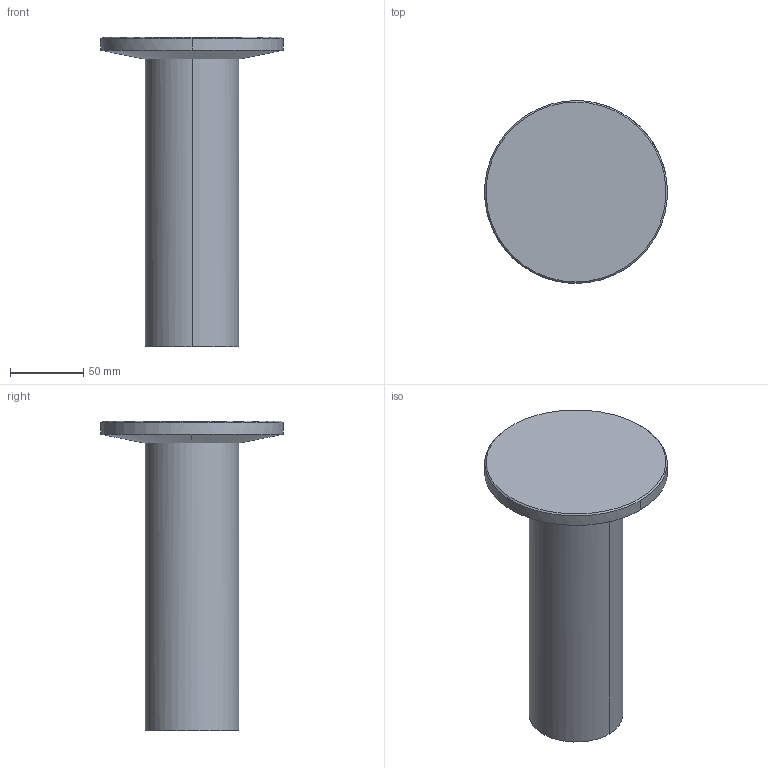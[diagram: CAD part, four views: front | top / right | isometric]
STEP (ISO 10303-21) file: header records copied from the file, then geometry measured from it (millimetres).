
FILE_DESCRIPTION(/* description */ (''),/* implementation_level */ '2;1');
FILE_NAME(/* name */ 'CRCECO~2',/* time_stamp */ '2025-10-16T12:41:06+02:00',/* author */ (''),/* organization */ (''),/* preprocessor_version */ 'ST-DEVELOPER v15',/* originating_system */ '',/* authorisation */ '');
FILE_SCHEMA (('AUTOMOTIVE_DESIGN'));
Length unit declared in the file: millimetre
Products named in the file (1): Document
Bounding box: 125 x 125 x 211.99 mm (x, y, z)
Volume: 625026.6 mm3; surface area: 99672.8 mm2
Topology: 3 solids, 3 shells, 32 faces, 64 edges, 34 vertices
Faces by surface type: bspline 28, plane 4
Entity records: 929 total; most frequent: CARTESIAN_POINT 556, ORIENTED_EDGE 120, EDGE_CURVE 60, VERTEX_POINT 34, ADVANCED_FACE 32, FACE_OUTER_BOUND 32, EDGE_LOOP 32, B_SPLINE_CURVE_WITH_KNOTS 20
